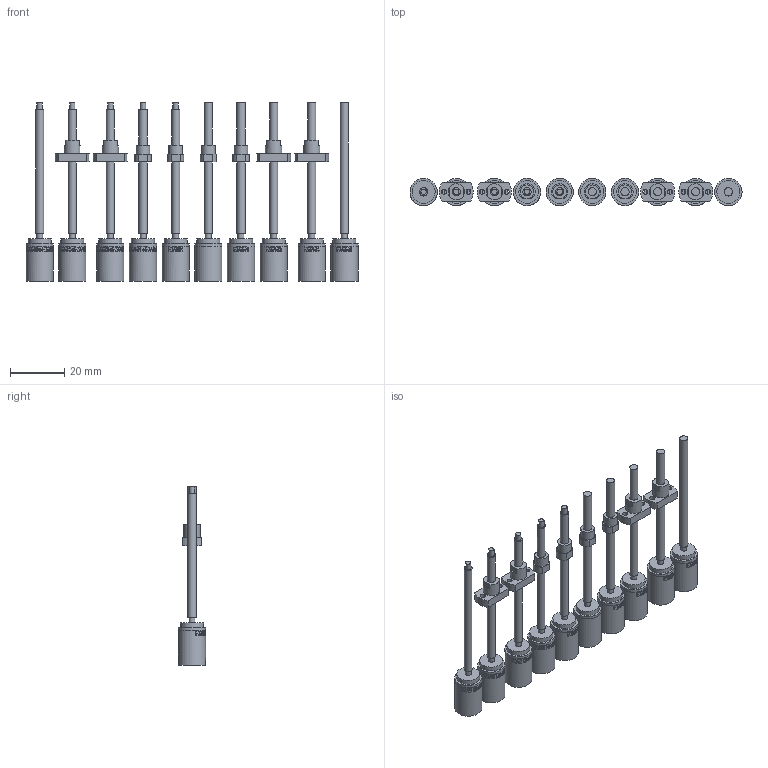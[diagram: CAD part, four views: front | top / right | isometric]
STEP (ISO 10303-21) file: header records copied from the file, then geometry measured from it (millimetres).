
FILE_DESCRIPTION(/* description */ (''),/* implementation_level */ '2;1');
FILE_NAME(/* name */ '10L-2stage_SL_standard_KWNx_KWS1.stp',/* time_stamp */ '2023-05-12T06:52:48+02:00',/* author */ ('DR. FRITZ FAULHABER GmbH & Co. KG'),/* organization */ ('DR. FRITZ FAULHABER GmbH & Co. KG'),/* preprocessor_version */ 'ST-DEVELOPER v16.7',/* originating_system */ 'SIEMENS PLM Software NX 1919',/* authorisation */ '');
FILE_SCHEMA (('AUTOMOTIVE_DESIGN { 1 0 10303 214 3 1 1 1 }'));
Length unit declared in the file: millimetre
Products named in the file (1): H99999996-C-Linear Actuato
Bounding box: 122 x 10 x 65.55 mm (x, y, z)
Volume: 16039.5 mm3; surface area: 13385.5 mm2
Topology: 10 solids, 10 shells, 940 faces, 2267 edges, 1512 vertices
Faces by surface type: plane 484, bspline 245, cylinder 201, cone 10
Full cylindrical faces by diameter (mm): 1.8 x8, 2 x5, 2.2 x10, 3 x18, 3.12 x10, 3.52 x10, 4.959 x10, 5 x4, 6 x14, 8.5 x10, 9.8 x10, 10 x20
Entity records: 45110 total; most frequent: CARTESIAN_POINT 21985, ORIENTED_EDGE 4184, DIRECTION 2779, EDGE_CURVE 2092, VERTEX_POINT 1478, EDGE_LOOP 1262, B_SPLINE_CURVE_WITH_KNOTS 1198, AXIS2_PLACEMENT_3D 1189
